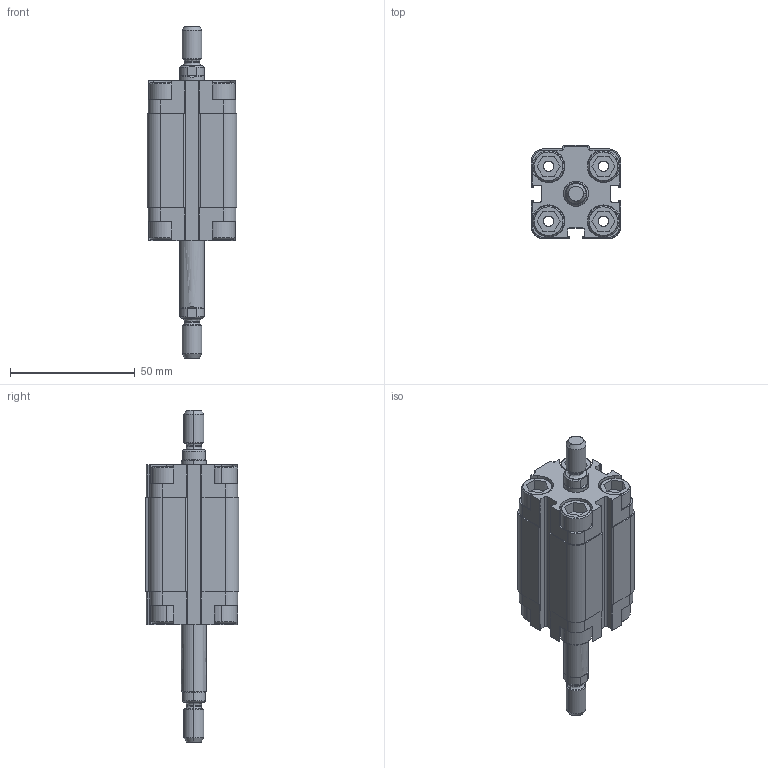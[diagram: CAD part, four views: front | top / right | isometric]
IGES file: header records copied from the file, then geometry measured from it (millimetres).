
Start section: SolidWorks IGES file using analytic representation for surfaces
Global section: file name: K:\Disegni Esecutivi\Cilindri\2_DISEGNI_cilindri_in_produzione\CILINDRO_ISO_21287\seconda versione cilindro 21287\2_CIL20\CPLX_20\3d_pieni\WJM020_PIENO\WJM0200025A.igs; native system: SolidWorks 2011; preprocessor: SolidWorks 2011; author: Cad01; date: 120623.110953; units: millimetre
Bounding box: 36 x 37.5 x 133 mm (x, y, z)
Surface area: 23207.6 mm2 (no closed solid volume)
Topology: 0 solids, 0 shells, 364 faces, 4200 edges, 4200 vertices
Faces by surface type: bspline 200, revolution 164
